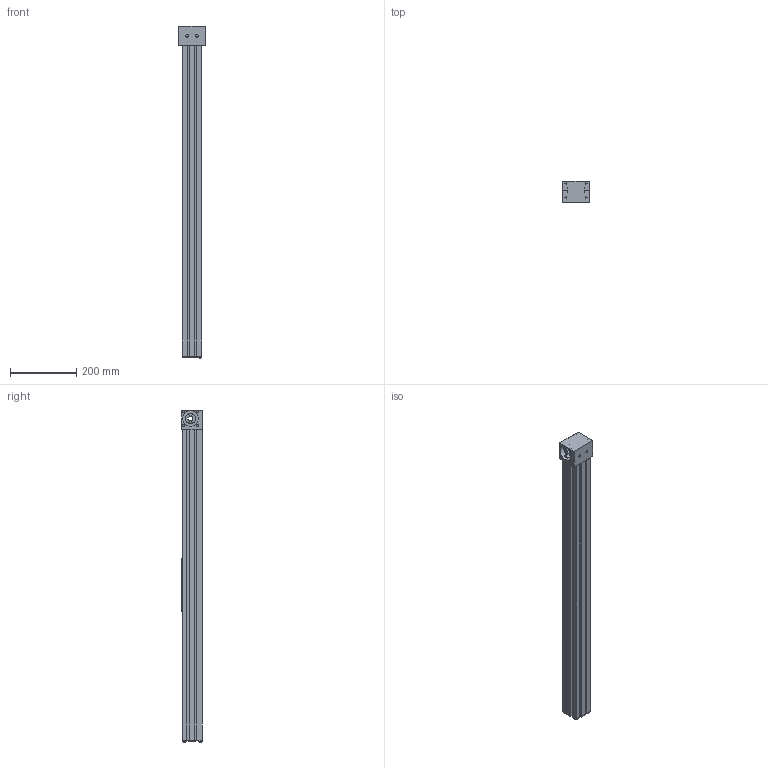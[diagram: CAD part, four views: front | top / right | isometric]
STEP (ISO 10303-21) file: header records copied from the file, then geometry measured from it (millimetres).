
FILE_DESCRIPTION (( 'STEP AP214' ), '1' );
FILE_NAME ('LSZ60.STEP', '2022-06-24T09:01:31', ( '' ), ( '' ), 'SwSTEP 2.0', 'SolidWorks 2020', '' );
FILE_SCHEMA (( 'AUTOMOTIVE_DESIGN' ));
Length unit declared in the file: millimetre
Products named in the file (5): end plate^LSZ60; profile^LSZ60; LSZ60; carriage^LSZ60_carriage version 0; timing belt reverse unit^LSZ60_2x coupling claw
Assembly tree (4 placements, depth 2):
  LSZ60
    profile^LSZ60
    carriage^LSZ60_carriage version 0
    timing belt reverse unit^LSZ60_2x coupling claw
    end plate^LSZ60
Bounding box: 80 x 63 x 999.96 mm (x, y, z)
Volume: 2653991.2 mm3; surface area: 553472.3 mm2
Topology: 6 solids, 6 shells, 528 faces, 1357 edges, 882 vertices
Faces by surface type: plane 393, cylinder 95, cone 24, bspline 16
Entity records: 17936 total; most frequent: CARTESIAN_POINT 4566, ORIENTED_EDGE 2682, DIRECTION 2545, EDGE_CURVE 1341, VECTOR 1087, LINE 1087, VERTEX_POINT 882, AXIS2_PLACEMENT_3D 729
